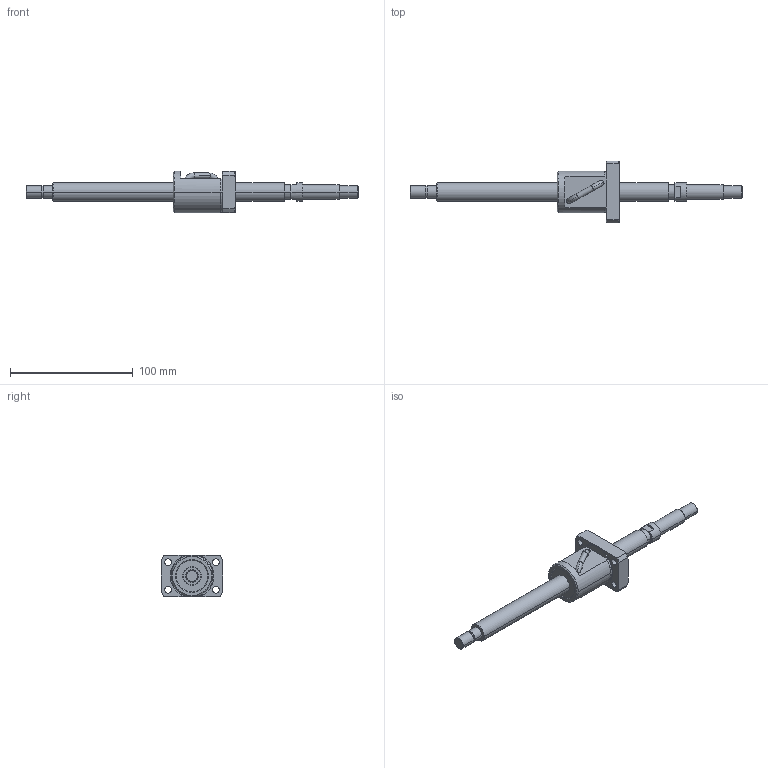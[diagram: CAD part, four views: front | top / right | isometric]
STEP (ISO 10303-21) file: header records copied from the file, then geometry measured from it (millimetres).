
FILE_DESCRIPTION (( 'STEP AP214' ), '1' );
FILE_NAME ('BS1510A-3D.STEP', '2014-03-05T14:48:20', ( '' ), ( '' ), 'SwSTEP 2.0', 'SolidWorks 2012', '' );
FILE_SCHEMA (( 'AUTOMOTIVE_DESIGN' ));
Length unit declared in the file: millimetre
Products named in the file (3): BS1510Aナット; BS1510AŽ²; BS1510A-3D
Assembly tree (2 placements, depth 2):
  BS1510A-3D
    BS1510AŽ²
    BS1510Aナット
Bounding box: 271 x 50 x 34 mm (x, y, z)
Volume: 80400.7 mm3; surface area: 26265 mm2
Topology: 2 solids, 2 shells, 156 faces, 398 edges, 257 vertices
Faces by surface type: cylinder 74, plane 42, cone 34, torus 4, bspline 2
Entity records: 6089 total; most frequent: CARTESIAN_POINT 2050, DIRECTION 834, ORIENTED_EDGE 792, EDGE_CURVE 396, AXIS2_PLACEMENT_3D 347, VERTEX_POINT 257, EDGE_LOOP 189, CIRCLE 188
